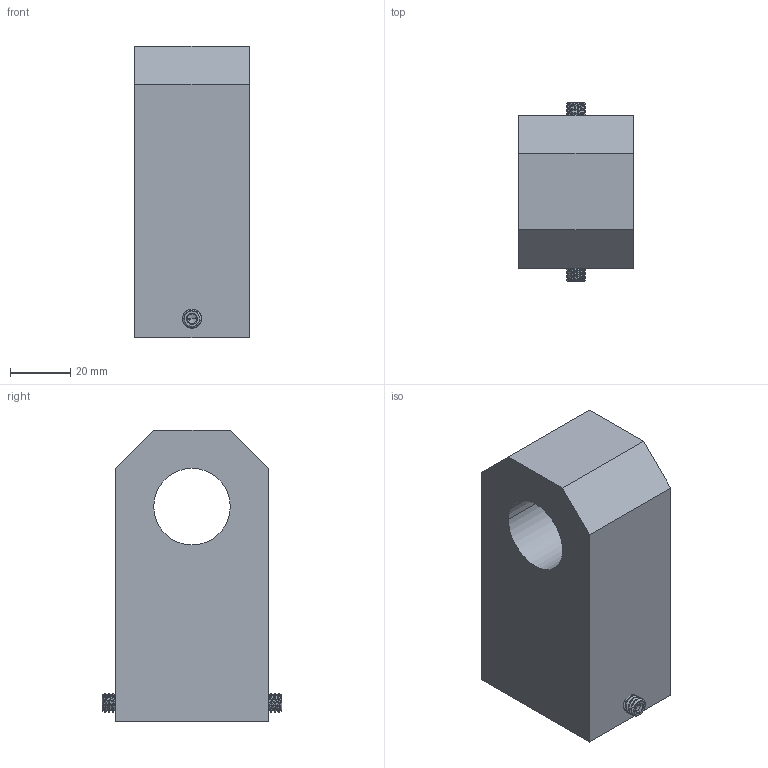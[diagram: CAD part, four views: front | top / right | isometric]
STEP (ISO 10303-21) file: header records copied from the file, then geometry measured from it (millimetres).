
FILE_DESCRIPTION (( 'STEP AP214' ), '1' );
FILE_NAME ('RE 1000.STEP', '2011-12-06T03:19:43', ( '' ), ( '' ), 'SwSTEP 2.0', 'SolidWorks 2010', '' );
FILE_SCHEMA (( 'AUTOMOTIVE_DESIGN' ));
Length unit declared in the file: inch
Products named in the file (3): RE 1000; 25 625 SET SCREW_94105A538
Assembly tree (3 placements, depth 2):
  RE 1000
    25 625 SET SCREW_94105A538  x2
    RE 1000
Bounding box: 38.1 x 59.69 x 96.84 mm (x, y, z)
Volume: 143367.4 mm3; surface area: 27276 mm2
Topology: 3 solids, 3 shells, 282 faces, 598 edges, 321 vertices
Faces by surface type: cone 130, cylinder 114, plane 38
Entity records: 7438 total; most frequent: CARTESIAN_POINT 2324, DIRECTION 693, ORIENTED_EDGE 670, EDGE_CURVE 335, AXIS2_PLACEMENT_3D 269, VERTEX_POINT 186, EDGE_LOOP 167, FACE_OUTER_BOUND 157
